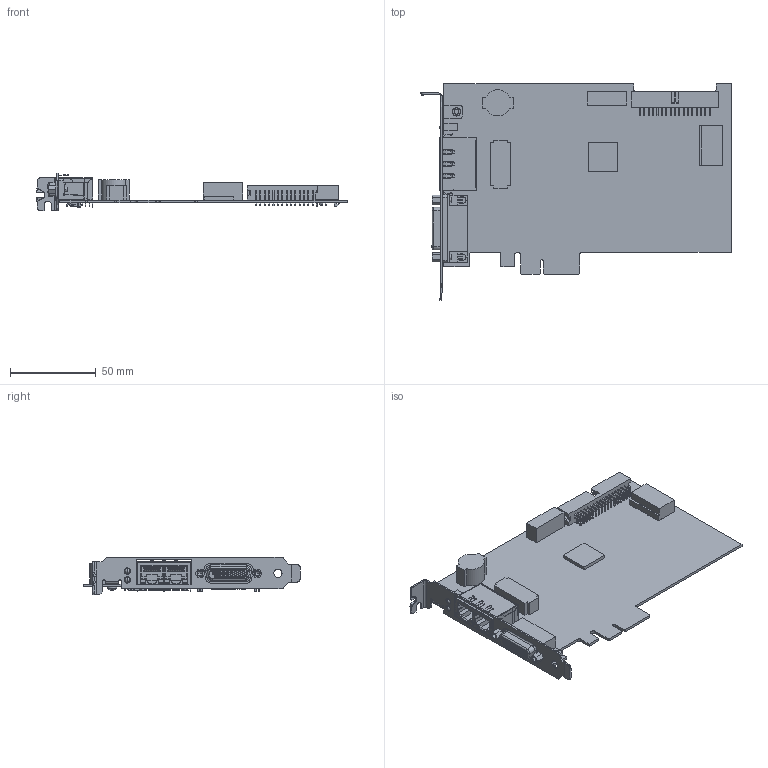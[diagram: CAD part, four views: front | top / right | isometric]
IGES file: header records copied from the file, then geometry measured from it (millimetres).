
Start section:  PTC IGES file: cu_pcie-8237r.igs
Global section: file name: cu_pcie-8237r.igs; native system: Pro/ENGINEER by Parametric Technology Corporation; preprocessor: 2011490; author: dkendric; organization: Unknown; date: 20130307.140346; units: inch
Bounding box: 180.92 x 126.32 x 21.59 mm (x, y, z)
Surface area: 55856.6 mm2 (no closed solid volume)
Topology: 0 solids, 0 shells, 2636 faces, 14060 edges, 14052 vertices
Faces by surface type: bspline 2124, revolution 498, extrusion 14
